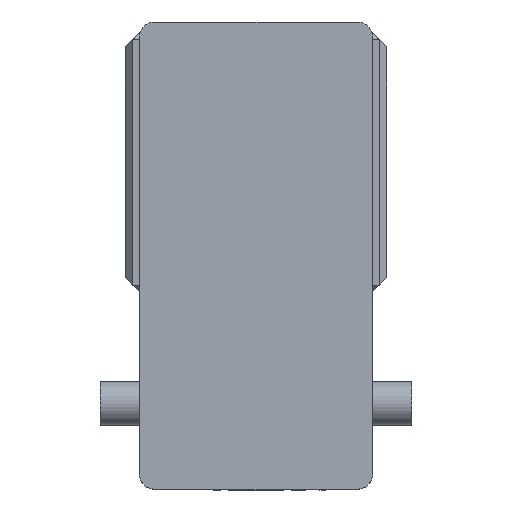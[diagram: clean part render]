
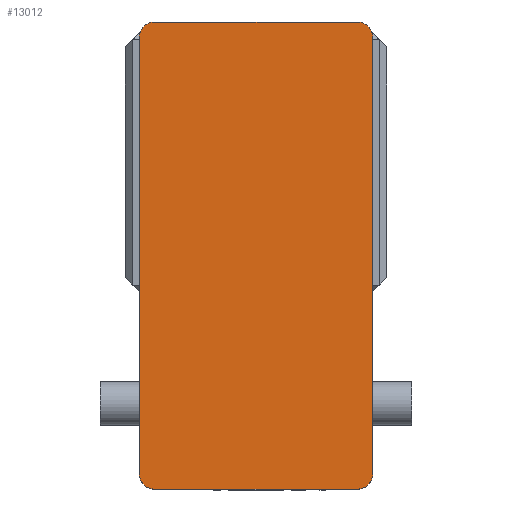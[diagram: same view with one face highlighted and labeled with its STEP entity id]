
A CAD part, left-side view. The second image highlights one B-rep face of the part: STEP entity #13012.
In plain terms, the highlighted planar face has unit normal (-1, 0, 0) as drawn and (0, 0, 1) by its records, which use the part's own axes.
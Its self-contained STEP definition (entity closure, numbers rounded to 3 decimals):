
#76 = CARTESIAN_POINT ( 'NONE',  ( -75., 140., 105. ) ) ;
#112 = CIRCLE ( 'NONE', #6927, 10. ) ;
#1195 = DIRECTION ( 'NONE',  ( 1., 0., 0. ) ) ;
#1219 = DIRECTION ( 'NONE',  ( 0., 0., 1. ) ) ;
#1232 = CARTESIAN_POINT ( 'NONE',  ( 65., -140., 105. ) ) ;
#1969 = CARTESIAN_POINT ( 'NONE',  ( 65., -150., 105. ) ) ;
#2342 = CARTESIAN_POINT ( 'NONE',  ( -65., 150., 105. ) ) ;
#2594 = VERTEX_POINT ( 'NONE', #8101 ) ;
#2671 = EDGE_CURVE ( 'NONE', #7410, #12197, #20283, .T. ) ;
#3510 = VERTEX_POINT ( 'NONE', #1969 ) ;
#4601 = DIRECTION ( 'NONE',  ( -1., 0., 0. ) ) ;
#4642 = CARTESIAN_POINT ( 'NONE',  ( -75., 150., 105. ) ) ;
#5027 = EDGE_CURVE ( 'NONE', #2594, #8396, #7027, .T. ) ;
#5185 = ORIENTED_EDGE ( 'NONE', *, *, #7855, .T. ) ;
#5300 = DIRECTION ( 'NONE',  ( 1., 0., 0. ) ) ;
#5369 = CARTESIAN_POINT ( 'NONE',  ( -75., -150., 105. ) ) ;
#5628 = EDGE_CURVE ( 'NONE', #7430, #11000, #8897, .T. ) ;
#5743 = LINE ( 'NONE', #17688, #5965 ) ;
#5965 = VECTOR ( 'NONE', #16843, 1000. ) ;
#6265 = ORIENTED_EDGE ( 'NONE', *, *, #5027, .T. ) ;
#6296 = VECTOR ( 'NONE', #10825, 1000. ) ;
#6699 = EDGE_CURVE ( 'NONE', #19953, #7410, #5743, .T. ) ;
#6791 = AXIS2_PLACEMENT_3D ( 'NONE', #7314, #7269, #7206 ) ;
#6927 = AXIS2_PLACEMENT_3D ( 'NONE', #7984, #7961, #7916 ) ;
#6988 = DIRECTION ( 'NONE',  ( 1., 0., 0. ) ) ;
#7004 = DIRECTION ( 'NONE',  ( 0., 0., 1. ) ) ;
#7007 = CARTESIAN_POINT ( 'NONE',  ( -65., -140., 105. ) ) ;
#7027 = LINE ( 'NONE', #11415, #6296 ) ;
#7206 = DIRECTION ( 'NONE',  ( 1., 0., 0. ) ) ;
#7269 = DIRECTION ( 'NONE',  ( 0., 0., 1. ) ) ;
#7314 = CARTESIAN_POINT ( 'NONE',  ( -65., 140., 105. ) ) ;
#7410 = VERTEX_POINT ( 'NONE', #9490 ) ;
#7430 = VERTEX_POINT ( 'NONE', #9560 ) ;
#7491 = EDGE_CURVE ( 'NONE', #8396, #7430, #112, .T. ) ;
#7595 = EDGE_CURVE ( 'NONE', #11000, #19953, #19483, .T. ) ;
#7855 = EDGE_CURVE ( 'NONE', #12197, #3510, #17723, .T. ) ;
#7916 = DIRECTION ( 'NONE',  ( 1., 0., 0. ) ) ;
#7933 = VECTOR ( 'NONE', #4601, 1000. ) ;
#7961 = DIRECTION ( 'NONE',  ( 0., 0., 1. ) ) ;
#7984 = CARTESIAN_POINT ( 'NONE',  ( 65., 140., 105. ) ) ;
#8101 = CARTESIAN_POINT ( 'NONE',  ( 75., -140., 105. ) ) ;
#8248 = EDGE_CURVE ( 'NONE', #3510, #2594, #13967, .T. ) ;
#8396 = VERTEX_POINT ( 'NONE', #19092 ) ;
#8624 = ORIENTED_EDGE ( 'NONE', *, *, #8248, .T. ) ;
#8739 = ORIENTED_EDGE ( 'NONE', *, *, #7491, .T. ) ;
#8897 = LINE ( 'NONE', #4642, #7933 ) ;
#9490 = CARTESIAN_POINT ( 'NONE',  ( -75., -140., 105. ) ) ;
#9560 = CARTESIAN_POINT ( 'NONE',  ( 65., 150., 105. ) ) ;
#10825 = DIRECTION ( 'NONE',  ( 0., 1., 0. ) ) ;
#11000 = VERTEX_POINT ( 'NONE', #2342 ) ;
#11415 = CARTESIAN_POINT ( 'NONE',  ( 75., 150., 105. ) ) ;
#12152 = AXIS2_PLACEMENT_3D ( 'NONE', #7007, #7004, #6988 ) ;
#12197 = VERTEX_POINT ( 'NONE', #18613 ) ;
#12568 = ORIENTED_EDGE ( 'NONE', *, *, #6699, .T. ) ;
#12578 = ORIENTED_EDGE ( 'NONE', *, *, #5628, .T. ) ;
#13012 = ADVANCED_FACE ( 'NONE', ( #17707 ), #16585, .T. ) ;
#13967 = CIRCLE ( 'NONE', #15785, 10. ) ;
#14310 = EDGE_LOOP ( 'NONE', ( #5185, #8624, #6265, #8739, #12578, #14704, #12568, #16788 ) ) ;
#14704 = ORIENTED_EDGE ( 'NONE', *, *, #7595, .T. ) ;
#15785 = AXIS2_PLACEMENT_3D ( 'NONE', #1232, #1219, #1195 ) ;
#16085 = AXIS2_PLACEMENT_3D ( 'NONE', #16485, #16470, #16465 ) ;
#16465 = DIRECTION ( 'NONE',  ( 1., 0., 0. ) ) ;
#16470 = DIRECTION ( 'NONE',  ( 0., 0., 1. ) ) ;
#16485 = CARTESIAN_POINT ( 'NONE',  ( 0., 0., 105. ) ) ;
#16585 = PLANE ( 'NONE',  #16085 ) ;
#16788 = ORIENTED_EDGE ( 'NONE', *, *, #2671, .T. ) ;
#16843 = DIRECTION ( 'NONE',  ( 0., -1., 0. ) ) ;
#17494 = VECTOR ( 'NONE', #5300, 1000. ) ;
#17688 = CARTESIAN_POINT ( 'NONE',  ( -75., 150., 105. ) ) ;
#17707 = FACE_OUTER_BOUND ( 'NONE', #14310, .T. ) ;
#17723 = LINE ( 'NONE', #5369, #17494 ) ;
#18613 = CARTESIAN_POINT ( 'NONE',  ( -65., -150., 105. ) ) ;
#19092 = CARTESIAN_POINT ( 'NONE',  ( 75., 140., 105. ) ) ;
#19483 = CIRCLE ( 'NONE', #6791, 10. ) ;
#19953 = VERTEX_POINT ( 'NONE', #76 ) ;
#20283 = CIRCLE ( 'NONE', #12152, 10. ) ;
